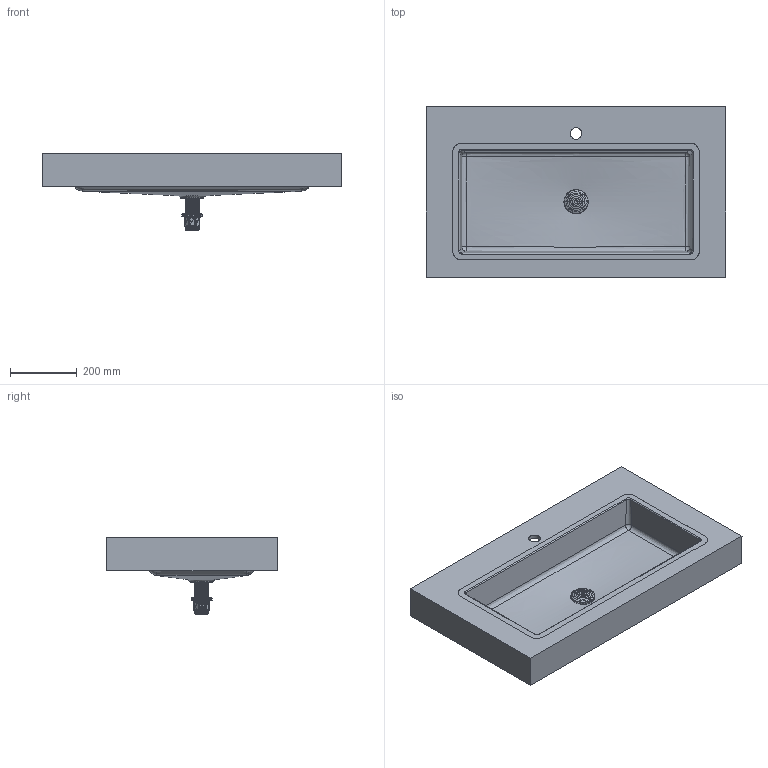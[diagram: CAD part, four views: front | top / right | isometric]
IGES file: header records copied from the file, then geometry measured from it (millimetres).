
Start section: Data from Parasolid IGES Translator 19.0.9, Copyright(c) 2006 Siemens PL M Software. All Rights Reserved.
Global section: file name: noorth-top-H 10 D 51,3 W 90_6531.igs; native system: By Siemens PLM Incorporated; preprocessor: XPlus GENERIC/IGES 19.0.9; author: Noname; organization: Noname; date: 20200603.085656; units: metre
Bounding box: 900 x 512 x 230.13 mm (x, y, z)
Volume: 9625702.8 mm3; surface area: 1745611.6 mm2
Topology: 2 solids, 2 shells, 11704 faces, 35060 edges, 34975 vertices
Faces by surface type: extrusion 11618, bspline 48, plane 29, cylinder 6, cone 3
Full cylindrical faces by diameter (mm): 34.9 x1, 45 x1
